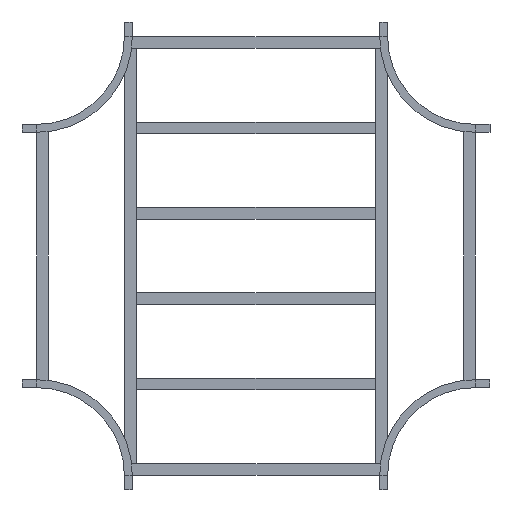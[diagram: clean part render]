
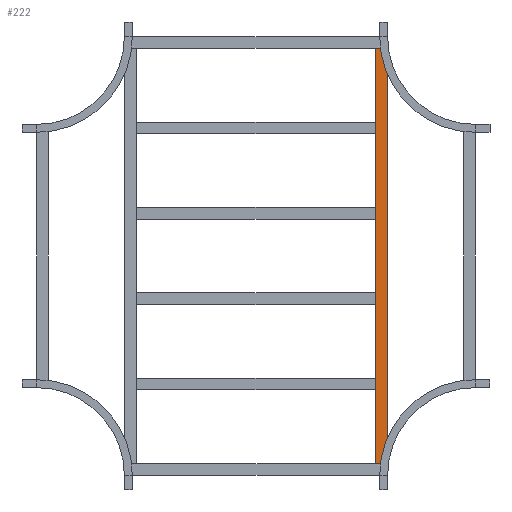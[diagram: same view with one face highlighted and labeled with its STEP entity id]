
A CAD part, front view. The second image highlights one B-rep face of the part: STEP entity #222.
In plain terms, the highlighted planar face has unit normal (0, -1, 0).
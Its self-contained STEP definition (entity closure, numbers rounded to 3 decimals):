
#54 = EDGE_LOOP ( 'NONE', ( #845, #1370, #554, #1196 ) ) ;
#200 = EDGE_CURVE ( 'NONE', #1184, #1276, #682, .T. ) ;
#222 = ADVANCED_FACE ( 'NONE', ( #769 ), #1218, .F. ) ;
#315 = CARTESIAN_POINT ( 'NONE',  ( 709.5, 0., -20.25 ) ) ;
#356 = CARTESIAN_POINT ( 'NONE',  ( 709.5, 0., 20.25 ) ) ;
#359 = CARTESIAN_POINT ( 'NONE',  ( 709.5, 0., 20.25 ) ) ;
#526 = VERTEX_POINT ( 'NONE', #1191 ) ;
#554 = ORIENTED_EDGE ( 'NONE', *, *, #997, .F. ) ;
#556 = EDGE_CURVE ( 'NONE', #526, #1276, #639, .T. ) ;
#639 = LINE ( 'NONE', #315, #1240 ) ;
#678 = VERTEX_POINT ( 'NONE', #356 ) ;
#682 = LINE ( 'NONE', #879, #1405 ) ;
#755 = DIRECTION ( 'NONE',  ( -1., 0., 0. ) ) ;
#769 = FACE_OUTER_BOUND ( 'NONE', #54, .T. ) ;
#781 = LINE ( 'NONE', #1003, #1233 ) ;
#794 = CARTESIAN_POINT ( 'NONE',  ( -709.5, 0., 20.25 ) ) ;
#809 = AXIS2_PLACEMENT_3D ( 'NONE', #359, #1093, #1235 ) ;
#845 = ORIENTED_EDGE ( 'NONE', *, *, #200, .T. ) ;
#858 = DIRECTION ( 'NONE',  ( 0., 0., -1. ) ) ;
#879 = CARTESIAN_POINT ( 'NONE',  ( -709.5, 0., 20.25 ) ) ;
#997 = EDGE_CURVE ( 'NONE', #678, #526, #1055, .T. ) ;
#1003 = CARTESIAN_POINT ( 'NONE',  ( 709.5, 0., 20.25 ) ) ;
#1055 = LINE ( 'NONE', #1187, #1079 ) ;
#1079 = VECTOR ( 'NONE', #858, 1000. ) ;
#1093 = DIRECTION ( 'NONE',  ( 0., 1., 0. ) ) ;
#1184 = VERTEX_POINT ( 'NONE', #794 ) ;
#1187 = CARTESIAN_POINT ( 'NONE',  ( 709.5, 0., 20.25 ) ) ;
#1191 = CARTESIAN_POINT ( 'NONE',  ( 709.5, 0., -20.25 ) ) ;
#1192 = EDGE_CURVE ( 'NONE', #678, #1184, #781, .T. ) ;
#1196 = ORIENTED_EDGE ( 'NONE', *, *, #1192, .T. ) ;
#1202 = DIRECTION ( 'NONE',  ( 0., 0., -1. ) ) ;
#1217 = CARTESIAN_POINT ( 'NONE',  ( -709.5, 0., -20.25 ) ) ;
#1218 = PLANE ( 'NONE',  #809 ) ;
#1233 = VECTOR ( 'NONE', #1352, 1000. ) ;
#1235 = DIRECTION ( 'NONE',  ( 0., 0., 1. ) ) ;
#1240 = VECTOR ( 'NONE', #755, 1000. ) ;
#1276 = VERTEX_POINT ( 'NONE', #1217 ) ;
#1352 = DIRECTION ( 'NONE',  ( -1., 0., 0. ) ) ;
#1370 = ORIENTED_EDGE ( 'NONE', *, *, #556, .F. ) ;
#1405 = VECTOR ( 'NONE', #1202, 1000. ) ;
